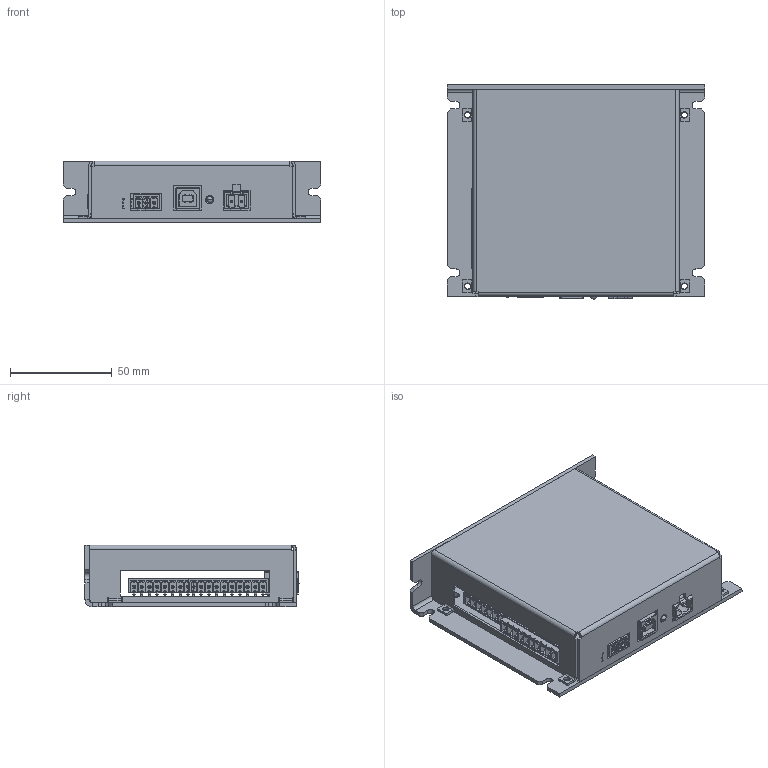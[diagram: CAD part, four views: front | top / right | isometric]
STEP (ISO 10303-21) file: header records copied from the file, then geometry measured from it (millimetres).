
FILE_DESCRIPTION (( 'STEP AP214' ), '1' );
FILE_NAME ('PMX-2EX-SA-external.STEP', '2011-08-01T17:04:22', ( '' ), ( '' ), 'SwSTEP 2.0', 'SolidWorks 2011', '' );
FILE_SCHEMA (( 'AUTOMOTIVE_DESIGN' ));
Length unit declared in the file: inch
Products named in the file (11): PCB-2EX-SA-ASSY(1); mc_1_5-3-g-3_81; mstba_2.5-2-g; SW3dPS-b10b-phdss; mc_1_5-10-g-3_81; mc_1_5-8-g-3_81; SW3dPS-67068-0000-molex; SW3dPS-65-187, LED1x1,Y; PMX-BASE; PMX-2EX-SA-COVER; PMX-2EX-SA-external
Assembly tree (12 placements, depth 3):
  PMX-2EX-SA-external
    PMX-2EX-SA-COVER
    PCB-2EX-SA-ASSY(1)
      SW3dPS-65-187, LED1x1,Y
      mc_1_5-8-g-3_81  x2
      mstba_2.5-2-g
      mc_1_5-10-g-3_81  x2
      SW3dPS-b10b-phdss
      SW3dPS-67068-0000-molex
      mc_1_5-3-g-3_81
    PMX-BASE
Bounding box: 127 x 105.41 x 30.48 mm (x, y, z)
Volume: 61663.4 mm3; surface area: 84985.9 mm2
Topology: 10 solids, 13 shells, 3585 faces, 8954 edges, 5723 vertices
Faces by surface type: plane 2880, cylinder 611, bspline 51, cone 41, sphere 2
Entity records: 92632 total; most frequent: CARTESIAN_POINT 13002, ORIENTED_EDGE 11336, DIRECTION 10949, EDGE_CURVE 5680, LINE 4713, VECTOR 4713, VERTEX_POINT 3653, AXIS2_PLACEMENT_3D 3118
